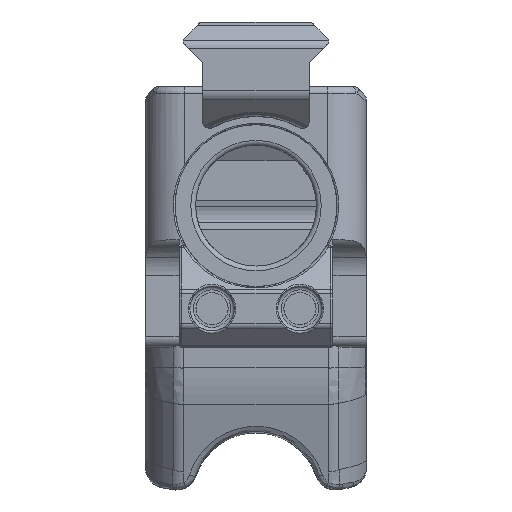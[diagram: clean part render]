
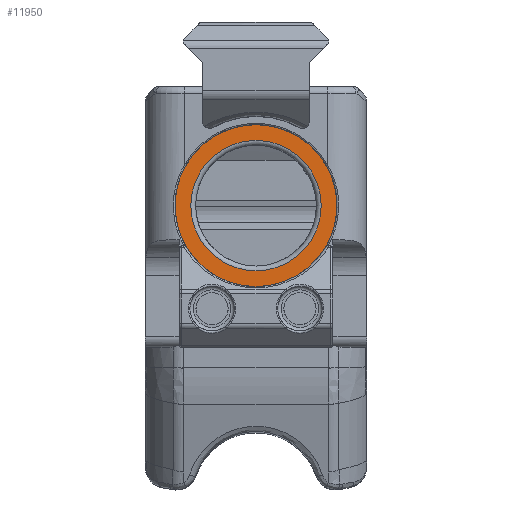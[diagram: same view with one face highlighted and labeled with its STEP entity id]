
A CAD part, front view. The second image highlights one B-rep face of the part: STEP entity #11950.
In plain terms, the highlighted planar face has unit normal (0, -1, 0).
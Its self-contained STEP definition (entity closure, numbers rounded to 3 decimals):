
#136=FACE_BOUND('',#1736,.T.);
#632=PLANE('',#12883);
#1009=FACE_OUTER_BOUND('',#1735,.T.);
#1735=EDGE_LOOP('',(#9199));
#1736=EDGE_LOOP('',(#9200));
#2309=CIRCLE('',#12876,9.425);
#2314=CIRCLE('',#12884,11.697);
#5282=VERTEX_POINT('',#18999);
#5295=VERTEX_POINT('',#19375);
#6658=EDGE_CURVE('',#5282,#5282,#2309,.T.);
#6679=EDGE_CURVE('',#5295,#5295,#2314,.T.);
#9199=ORIENTED_EDGE('',*,*,#6679,.T.);
#9200=ORIENTED_EDGE('',*,*,#6658,.F.);
#11950=ADVANCED_FACE('',(#1009,#136),#632,.T.);
#12876=AXIS2_PLACEMENT_3D('',#19000,#15119,#15120);
#12883=AXIS2_PLACEMENT_3D('',#19374,#15134,#15135);
#12884=AXIS2_PLACEMENT_3D('',#19376,#15136,#15137);
#15119=DIRECTION('center_axis',(0.,-1.,0.));
#15120=DIRECTION('ref_axis',(0.922,0.,0.388));
#15134=DIRECTION('center_axis',(0.,-1.,0.));
#15135=DIRECTION('ref_axis',(1.,0.,0.));
#15136=DIRECTION('center_axis',(0.,-1.,0.));
#15137=DIRECTION('ref_axis',(1.,0.,0.));
#18999=CARTESIAN_POINT('',(15.977,-18.733,-125.541));
#19000=CARTESIAN_POINT('Origin',(15.977,-18.733,-116.116));
#19374=CARTESIAN_POINT('Origin',(15.977,-18.733,-116.116));
#19375=CARTESIAN_POINT('',(15.977,-18.733,-127.813));
#19376=CARTESIAN_POINT('Origin',(15.977,-18.733,-116.116));
